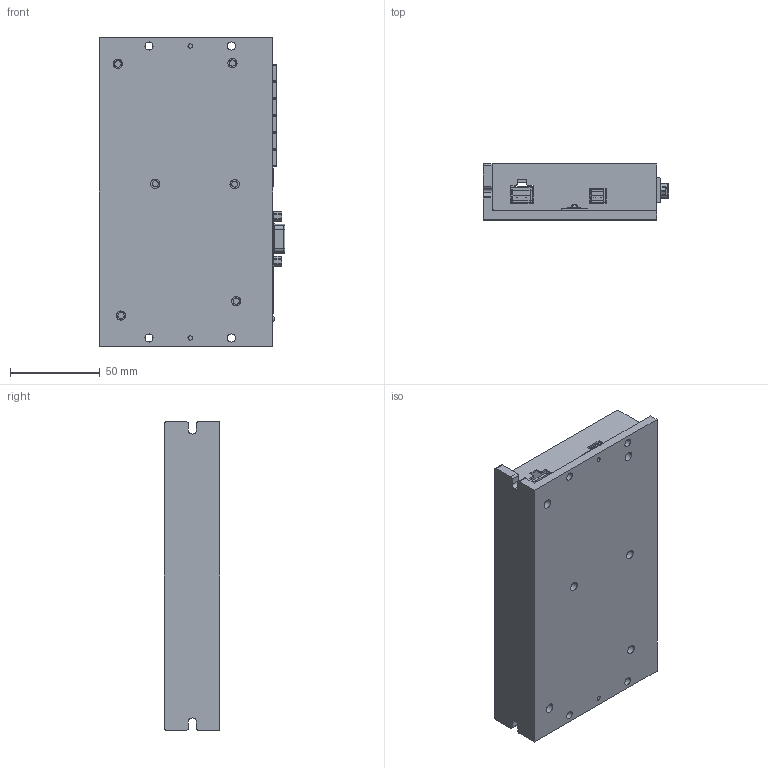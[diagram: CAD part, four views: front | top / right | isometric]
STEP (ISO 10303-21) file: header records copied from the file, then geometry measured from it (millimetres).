
FILE_DESCRIPTION (( 'STEP AP214' ), '1' );
FILE_NAME ('ASDB4880-V2.1淕儂俋夤.STEP', '2024-04-02T09:08:21', ( 'Microsoft' ), ( 'Microsoft' ), 'SwSTEP 2.0', 'SolidWorks 2017', '' );
FILE_SCHEMA (( 'AUTOMOTIVE_DESIGN' ));
Length unit declared in the file: millimetre
Products named in the file (1): ASDB4880-V2.1淕儂俋夤
Bounding box: 103.69 x 31 x 172 mm (x, y, z)
Surface area: 140851 mm2 (no closed solid volume)
Topology: 0 solids, 90 shells, 4549 faces, 11956 edges, 7751 vertices
Faces by surface type: plane 2632, cylinder 1020, bspline 747, torus 66, cone 64, sphere 20
Entity records: 215832 total; most frequent: CARTESIAN_POINT 57355, ORIENTED_EDGE 23868, DIRECTION 19225, EDGE_CURVE 11936, LINE 8159, VECTOR 8159, VERTEX_POINT 7751, AXIS2_PLACEMENT_3D 5533
